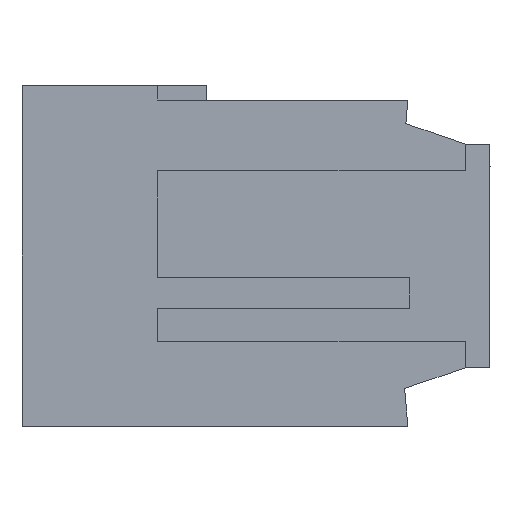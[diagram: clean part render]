
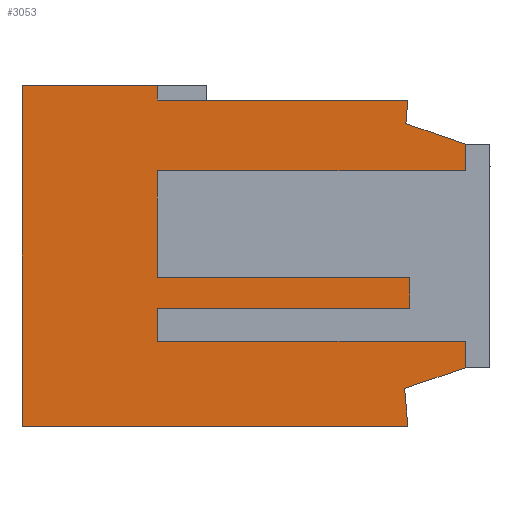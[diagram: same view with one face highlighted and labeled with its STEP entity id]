
A CAD part, left-side view. The second image highlights one B-rep face of the part: STEP entity #3053.
In plain terms, the highlighted planar face has unit normal (-1, 0, 0).
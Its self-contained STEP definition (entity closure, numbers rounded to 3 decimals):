
#2935=AXIS2_PLACEMENT_3D('Plane Axis2P3D',#2932,#2933,#2934) ;
#1079=CARTESIAN_POINT('Vertex',(-11.4,22.8,-8.3)) ;
#1082=CARTESIAN_POINT('Line Origine',(-11.4,22.8,0.)) ;
#1086=CARTESIAN_POINT('Vertex',(-11.4,22.8,8.3)) ;
#1673=CARTESIAN_POINT('Line Origine',(-11.4,19.5,8.3)) ;
#1677=CARTESIAN_POINT('Vertex',(-11.4,16.2,8.3)) ;
#1692=CARTESIAN_POINT('Line Origine',(-11.4,16.2,7.95)) ;
#1696=CARTESIAN_POINT('Vertex',(-11.4,16.2,7.6)) ;
#2887=CARTESIAN_POINT('Vertex',(-11.4,4.,-8.3)) ;
#2890=CARTESIAN_POINT('Line Origine',(-11.4,13.4,-8.3)) ;
#2932=CARTESIAN_POINT('Axis2P3D Location',(-11.4,23.232,8.632)) ;
#2937=CARTESIAN_POINT('Line Origine',(-11.4,16.2,1.55)) ;
#2941=CARTESIAN_POINT('Vertex',(-11.4,16.2,-1.05)) ;
#2943=CARTESIAN_POINT('Vertex',(-11.4,16.2,4.15)) ;
#2946=CARTESIAN_POINT('Line Origine',(-11.4,8.7,4.15)) ;
#2950=CARTESIAN_POINT('Vertex',(-11.4,1.2,4.15)) ;
#2953=CARTESIAN_POINT('Line Origine',(-11.4,1.2,4.8)) ;
#2957=CARTESIAN_POINT('Vertex',(-11.4,1.2,5.45)) ;
#2960=CARTESIAN_POINT('Line Origine',(-11.4,2.65,5.95)) ;
#2964=CARTESIAN_POINT('Vertex',(-11.4,4.101,6.45)) ;
#2967=CARTESIAN_POINT('Line Origine',(-11.4,4.05,7.025)) ;
#2971=CARTESIAN_POINT('Vertex',(-11.4,4.,7.6)) ;
#2974=CARTESIAN_POINT('Line Origine',(-11.4,10.1,7.6)) ;
#2979=CARTESIAN_POINT('Line Origine',(-11.4,4.081,-7.375)) ;
#2983=CARTESIAN_POINT('Vertex',(-11.4,4.162,-6.45)) ;
#2986=CARTESIAN_POINT('Line Origine',(-11.4,2.681,-5.95)) ;
#2990=CARTESIAN_POINT('Vertex',(-11.4,1.2,-5.45)) ;
#2993=CARTESIAN_POINT('Line Origine',(-11.4,1.2,-4.8)) ;
#2997=CARTESIAN_POINT('Vertex',(-11.4,1.2,-4.15)) ;
#3000=CARTESIAN_POINT('Line Origine',(-11.4,8.7,-4.15)) ;
#3004=CARTESIAN_POINT('Vertex',(-11.4,16.2,-4.15)) ;
#3007=CARTESIAN_POINT('Line Origine',(-11.4,16.2,-3.35)) ;
#3011=CARTESIAN_POINT('Vertex',(-11.4,16.2,-2.55)) ;
#3014=CARTESIAN_POINT('Line Origine',(-11.4,10.05,-2.55)) ;
#3018=CARTESIAN_POINT('Vertex',(-11.4,3.9,-2.55)) ;
#3021=CARTESIAN_POINT('Line Origine',(-11.4,3.9,-1.8)) ;
#3025=CARTESIAN_POINT('Vertex',(-11.4,3.9,-1.05)) ;
#3028=CARTESIAN_POINT('Line Origine',(-11.4,10.05,-1.05)) ;
#1083=DIRECTION('Vector Direction',(0.,0.,-1.)) ;
#1674=DIRECTION('Vector Direction',(0.,1.,0.)) ;
#1693=DIRECTION('Vector Direction',(0.,0.,1.)) ;
#2891=DIRECTION('Vector Direction',(0.,-1.,0.)) ;
#2933=DIRECTION('Axis2P3D Direction',(-1.,-0.,-0.)) ;
#2934=DIRECTION('Axis2P3D XDirection',(0.,0.,-1.)) ;
#2938=DIRECTION('Vector Direction',(0.,0.,1.)) ;
#2947=DIRECTION('Vector Direction',(0.,-1.,0.)) ;
#2954=DIRECTION('Vector Direction',(0.,0.,1.)) ;
#2961=DIRECTION('Vector Direction',(0.,0.945,0.326)) ;
#2968=DIRECTION('Vector Direction',(0.,-0.087,0.996)) ;
#2975=DIRECTION('Vector Direction',(0.,1.,0.)) ;
#2980=DIRECTION('Vector Direction',(0.,0.087,0.996)) ;
#2987=DIRECTION('Vector Direction',(0.,-0.947,0.32)) ;
#2994=DIRECTION('Vector Direction',(0.,0.,1.)) ;
#3001=DIRECTION('Vector Direction',(0.,1.,0.)) ;
#3008=DIRECTION('Vector Direction',(0.,0.,1.)) ;
#3015=DIRECTION('Vector Direction',(0.,-1.,0.)) ;
#3022=DIRECTION('Vector Direction',(0.,0.,1.)) ;
#3029=DIRECTION('Vector Direction',(0.,1.,0.)) ;
#1084=VECTOR('Line Direction',#1083,1.) ;
#1675=VECTOR('Line Direction',#1674,1.) ;
#1694=VECTOR('Line Direction',#1693,1.) ;
#2892=VECTOR('Line Direction',#2891,1.) ;
#2939=VECTOR('Line Direction',#2938,1.) ;
#2948=VECTOR('Line Direction',#2947,1.) ;
#2955=VECTOR('Line Direction',#2954,1.) ;
#2962=VECTOR('Line Direction',#2961,1.) ;
#2969=VECTOR('Line Direction',#2968,1.) ;
#2976=VECTOR('Line Direction',#2975,1.) ;
#2981=VECTOR('Line Direction',#2980,1.) ;
#2988=VECTOR('Line Direction',#2987,1.) ;
#2995=VECTOR('Line Direction',#2994,1.) ;
#3002=VECTOR('Line Direction',#3001,1.) ;
#3009=VECTOR('Line Direction',#3008,1.) ;
#3016=VECTOR('Line Direction',#3015,1.) ;
#3023=VECTOR('Line Direction',#3022,1.) ;
#3030=VECTOR('Line Direction',#3029,1.) ;
#3034=ORIENTED_EDGE('',*,*,#2945,.T.) ;
#3035=ORIENTED_EDGE('',*,*,#2952,.T.) ;
#3036=ORIENTED_EDGE('',*,*,#2959,.T.) ;
#3037=ORIENTED_EDGE('',*,*,#2966,.T.) ;
#3038=ORIENTED_EDGE('',*,*,#2973,.T.) ;
#3039=ORIENTED_EDGE('',*,*,#2978,.T.) ;
#3040=ORIENTED_EDGE('',*,*,#1698,.T.) ;
#3041=ORIENTED_EDGE('',*,*,#1679,.T.) ;
#3042=ORIENTED_EDGE('',*,*,#1088,.T.) ;
#3043=ORIENTED_EDGE('',*,*,#2894,.T.) ;
#3044=ORIENTED_EDGE('',*,*,#2985,.T.) ;
#3045=ORIENTED_EDGE('',*,*,#2992,.T.) ;
#3046=ORIENTED_EDGE('',*,*,#2999,.T.) ;
#3047=ORIENTED_EDGE('',*,*,#3006,.T.) ;
#3048=ORIENTED_EDGE('',*,*,#3013,.T.) ;
#3049=ORIENTED_EDGE('',*,*,#3020,.T.) ;
#3050=ORIENTED_EDGE('',*,*,#3027,.T.) ;
#3051=ORIENTED_EDGE('',*,*,#3032,.T.) ;
#3053=ADVANCED_FACE('MANIFOLD_SOLID_BREP #33',(#3052),#2936,.T.) ;
#1088=EDGE_CURVE('',#1087,#1080,#1085,.T.) ;
#1679=EDGE_CURVE('',#1678,#1087,#1676,.T.) ;
#1698=EDGE_CURVE('',#1697,#1678,#1695,.T.) ;
#2894=EDGE_CURVE('',#1080,#2888,#2893,.T.) ;
#2945=EDGE_CURVE('',#2942,#2944,#2940,.T.) ;
#2952=EDGE_CURVE('',#2944,#2951,#2949,.T.) ;
#2959=EDGE_CURVE('',#2951,#2958,#2956,.T.) ;
#2966=EDGE_CURVE('',#2958,#2965,#2963,.T.) ;
#2973=EDGE_CURVE('',#2965,#2972,#2970,.T.) ;
#2978=EDGE_CURVE('',#2972,#1697,#2977,.T.) ;
#2985=EDGE_CURVE('',#2888,#2984,#2982,.T.) ;
#2992=EDGE_CURVE('',#2984,#2991,#2989,.T.) ;
#2999=EDGE_CURVE('',#2991,#2998,#2996,.T.) ;
#3006=EDGE_CURVE('',#2998,#3005,#3003,.T.) ;
#3013=EDGE_CURVE('',#3005,#3012,#3010,.T.) ;
#3020=EDGE_CURVE('',#3012,#3019,#3017,.T.) ;
#3027=EDGE_CURVE('',#3019,#3026,#3024,.T.) ;
#3032=EDGE_CURVE('',#3026,#2942,#3031,.T.) ;
#3033=EDGE_LOOP('',(#3034,#3035,#3036,#3037,#3038,#3039,#3040,#3041,#3042,#3043,#3044,#3045,#3046,#3047,#3048,#3049,#3050,#3051)) ;
#3052=FACE_OUTER_BOUND('',#3033,.T.) ;
#1085=LINE('Line',#1082,#1084) ;
#1676=LINE('Line',#1673,#1675) ;
#1695=LINE('Line',#1692,#1694) ;
#2893=LINE('Line',#2890,#2892) ;
#2940=LINE('Line',#2937,#2939) ;
#2949=LINE('Line',#2946,#2948) ;
#2956=LINE('Line',#2953,#2955) ;
#2963=LINE('Line',#2960,#2962) ;
#2970=LINE('Line',#2967,#2969) ;
#2977=LINE('Line',#2974,#2976) ;
#2982=LINE('Line',#2979,#2981) ;
#2989=LINE('Line',#2986,#2988) ;
#2996=LINE('Line',#2993,#2995) ;
#3003=LINE('Line',#3000,#3002) ;
#3010=LINE('Line',#3007,#3009) ;
#3017=LINE('Line',#3014,#3016) ;
#3024=LINE('Line',#3021,#3023) ;
#3031=LINE('Line',#3028,#3030) ;
#2936=PLANE('',#2935) ;
#1080=VERTEX_POINT('',#1079) ;
#1087=VERTEX_POINT('',#1086) ;
#1678=VERTEX_POINT('',#1677) ;
#1697=VERTEX_POINT('',#1696) ;
#2888=VERTEX_POINT('',#2887) ;
#2942=VERTEX_POINT('',#2941) ;
#2944=VERTEX_POINT('',#2943) ;
#2951=VERTEX_POINT('',#2950) ;
#2958=VERTEX_POINT('',#2957) ;
#2965=VERTEX_POINT('',#2964) ;
#2972=VERTEX_POINT('',#2971) ;
#2984=VERTEX_POINT('',#2983) ;
#2991=VERTEX_POINT('',#2990) ;
#2998=VERTEX_POINT('',#2997) ;
#3005=VERTEX_POINT('',#3004) ;
#3012=VERTEX_POINT('',#3011) ;
#3019=VERTEX_POINT('',#3018) ;
#3026=VERTEX_POINT('',#3025) ;
